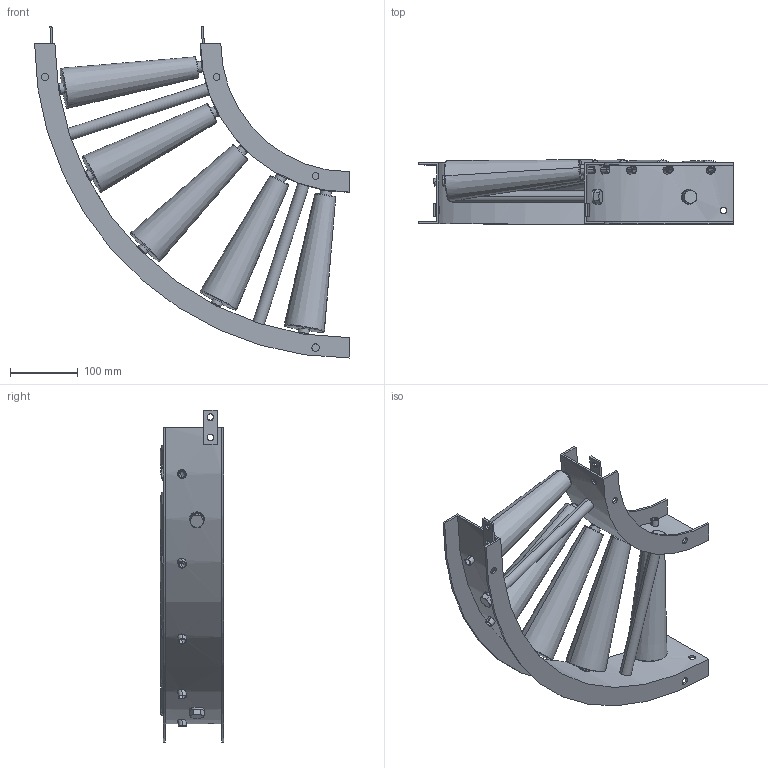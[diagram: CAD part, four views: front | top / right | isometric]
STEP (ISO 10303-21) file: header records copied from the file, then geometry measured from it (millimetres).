
FILE_DESCRIPTION (( 'STEP AP203' ), '1' );
FILE_NAME ('R-TC220_C.step', '2024-03-15T02:35:41', ( '' ), ( '' ), 'SwSTEP 2.0', 'SolidWorks 2023', '' );
FILE_SCHEMA (( 'CONFIG_CONTROL_DESIGN' ));
Length unit declared in the file: millimetre
Products named in the file (1): R-TC220_C
Bounding box: 465 x 94.43 x 490.33 mm (x, y, z)
Volume: 2199404.1 mm3; surface area: 643008.3 mm2
Topology: 24 solids, 24 shells, 328 faces, 754 edges, 488 vertices
Faces by surface type: cylinder 139, plane 135, cone 34, torus 20
Entity records: 12239 total; most frequent: CARTESIAN_POINT 4619, DIRECTION 1576, ORIENTED_EDGE 1508, EDGE_CURVE 754, AXIS2_PLACEMENT_3D 639, VERTEX_POINT 488, EDGE_LOOP 418, ADVANCED_FACE 328
